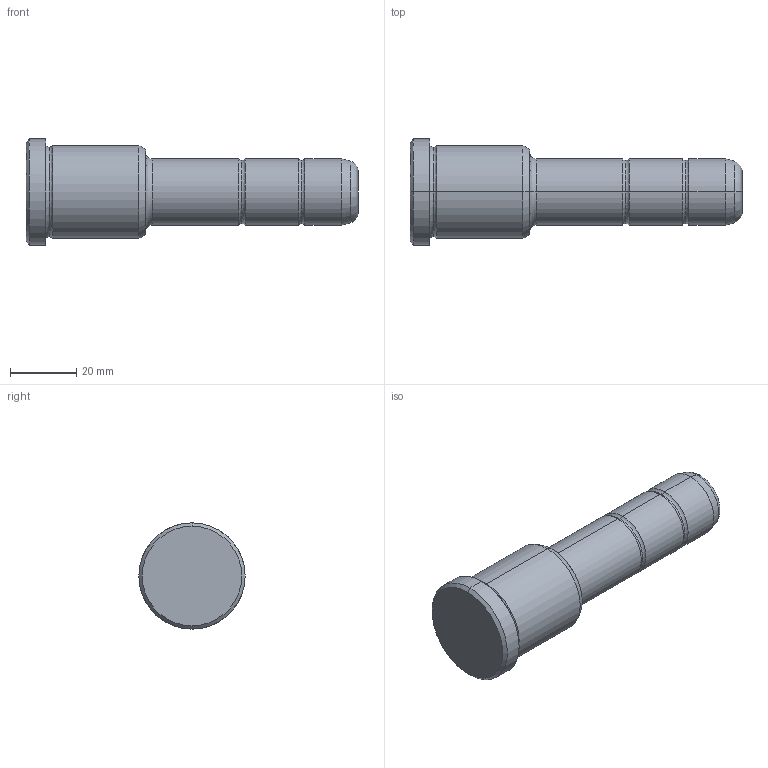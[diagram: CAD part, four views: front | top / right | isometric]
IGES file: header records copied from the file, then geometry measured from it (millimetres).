
Start section: START RECORD GO HERE.
Global section: file name: 351-20X36X100.igs; native system: DASSAULT SYSTEMES CATIA V5 R20 - www.3ds.com; preprocessor: CATIA Version 5 Release 20 ; author: Utente; organization: NB04-ASUS; date: 20210827.142527; units: millimetre
Bounding box: 100 x 32 x 32 mm (x, y, z)
Surface area: 8606 mm2 (no closed solid volume)
Topology: 0 solids, 0 shells, 36 faces, 204 edges, 204 vertices
Faces by surface type: revolution 32, plane 4
